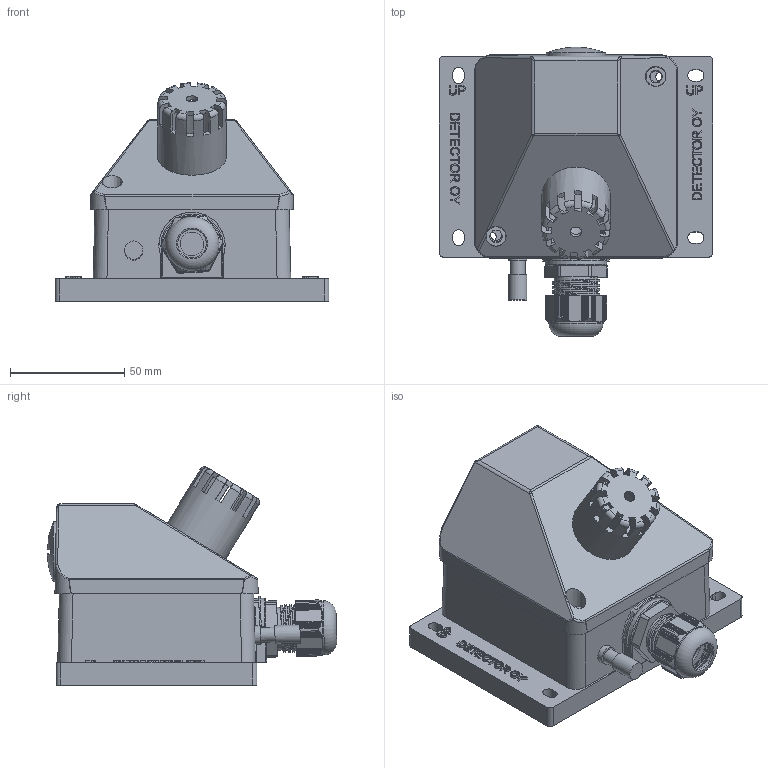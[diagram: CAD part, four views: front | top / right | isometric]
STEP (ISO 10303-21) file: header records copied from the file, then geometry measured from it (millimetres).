
FILE_DESCRIPTION(/* description */ (''),/* implementation_level */ '2;1');
FILE_NAME(/* name */ 'DGTi2-ex, DGTec2-ex.step',/* time_stamp */ '2026-06-29T12:56:23+03:00',/* author */ (''),/* organization */ (''),/* preprocessor_version */ 'ST-DEVELOPER v20.1',/* originating_system */ 'Autodesk Translation Framework v15.8.0.0',/* authorisation */ '');
FILE_SCHEMA (('AUTOMOTIVE_DESIGN { 1 0 10303 214 3 1 1 }'));
Length unit declared in the file: millimetre
Products named in the file (8): 2026-06-22-15-26-52-673; 311 kotelo _ Detector; NONE; 2026-06-22-15-47-44-507; 1; Vinokansi K40; 2026-06-22-16-22-14-972; 2026-06-23-15-47-37-805
Assembly tree (7 placements, depth 2):
  2026-06-22-15-26-52-673
    311 kotelo _ Detector
    NONE
    2026-06-22-15-47-44-507
    1
    Vinokansi K40
    2026-06-22-16-22-14-972
    2026-06-23-15-47-37-805
Bounding box: 120 x 126.72 x 95.69 mm (x, y, z)
Volume: 194085 mm3; surface area: 106623.3 mm2
Topology: 7 solids, 7 shells, 1268 faces, 3414 edges, 2208 vertices
Faces by surface type: plane 561, cylinder 350, bspline 276, torus 32, cone 26, sphere 23
Full cylindrical faces by diameter (mm): 0.217 x1, 2.5 x2, 3 x2, 4 x6, 5 x4, 5.5 x4, 6 x2, 6.4 x1, 8 x2, 9 x3, 10 x2, 12.5 x1, 12.6 x1, 17 x1, 18.95 x2, 19 x4, 20 x1, 20.8 x3, 21 x1, 21.5 x1, 22.5 x2, 23.7 x1, 24 x1, 26 x2, 29 x1, 30 x1, 73 x1
Entity records: 46444 total; most frequent: CARTESIAN_POINT 16051, ORIENTED_EDGE 6784, DIRECTION 5413, EDGE_CURVE 3392, VERTEX_POINT 2208, LINE 1897, VECTOR 1897, AXIS2_PLACEMENT_3D 1758
